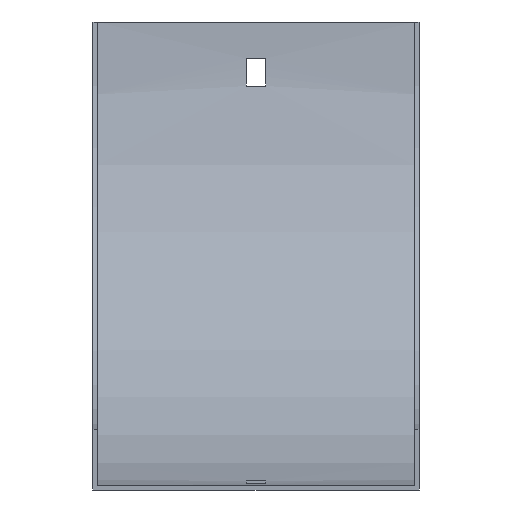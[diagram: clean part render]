
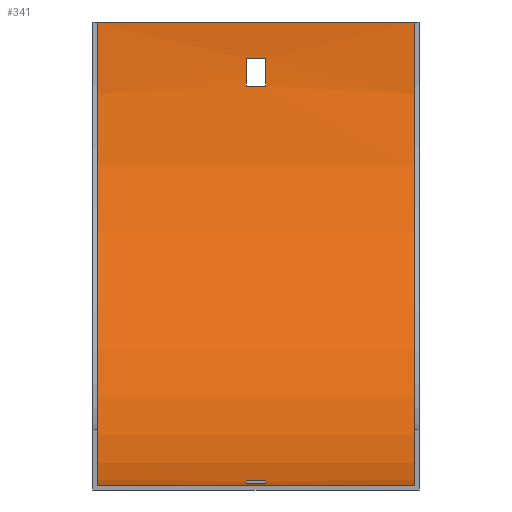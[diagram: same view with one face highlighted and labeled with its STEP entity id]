
A CAD part, front view. The second image highlights one B-rep face of the part: STEP entity #341.
In plain terms, the highlighted cylindrical face has radius 152 mm (diameter 304 mm), a partial arc.
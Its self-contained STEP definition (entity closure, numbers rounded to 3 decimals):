
#1 = CARTESIAN_POINT ( 'NONE',  ( -52., -153.5, 0. ) ) ;
#3 = DIRECTION ( 'NONE',  ( 1., 0., 0. ) ) ;
#10 = DIRECTION ( 'NONE',  ( 1., 0., 0. ) ) ;
#13 = EDGE_CURVE ( 'NONE', #569, #292, #121, .T. ) ;
#14 = AXIS2_PLACEMENT_3D ( 'NONE', #466, #3, #321 ) ;
#23 = VERTEX_POINT ( 'NONE', #535 ) ;
#29 = CARTESIAN_POINT ( 'NONE',  ( -52., -153.5, -152. ) ) ;
#50 = VERTEX_POINT ( 'NONE', #554 ) ;
#55 = CARTESIAN_POINT ( 'NONE',  ( -3.25, -141.5, -151.526 ) ) ;
#60 = EDGE_CURVE ( 'NONE', #567, #23, #520, .T. ) ;
#68 = ORIENTED_EDGE ( 'NONE', *, *, #60, .F. ) ;
#69 = CARTESIAN_POINT ( 'NONE',  ( 3.25, -1.974, -12. ) ) ;
#71 = DIRECTION ( 'NONE',  ( 0., 0., -1. ) ) ;
#73 = FACE_BOUND ( 'NONE', #352, .T. ) ;
#77 = CARTESIAN_POINT ( 'NONE',  ( 52., -153.5, -152. ) ) ;
#79 = CARTESIAN_POINT ( 'NONE',  ( 53.5, -2.958, -21. ) ) ;
#93 = ORIENTED_EDGE ( 'NONE', *, *, #103, .T. ) ;
#103 = EDGE_CURVE ( 'NONE', #590, #569, #225, .T. ) ;
#113 = VERTEX_POINT ( 'NONE', #77 ) ;
#121 = CIRCLE ( 'NONE', #462, 152. ) ;
#128 = EDGE_LOOP ( 'NONE', ( #68, #468, #253, #453 ) ) ;
#132 = VECTOR ( 'NONE', #448, 1000. ) ;
#136 = ORIENTED_EDGE ( 'NONE', *, *, #579, .F. ) ;
#140 = VECTOR ( 'NONE', #264, 1000. ) ;
#141 = ORIENTED_EDGE ( 'NONE', *, *, #561, .F. ) ;
#148 = EDGE_CURVE ( 'NONE', #191, #363, #501, .T. ) ;
#169 = DIRECTION ( 'NONE',  ( 0., 0., 1. ) ) ;
#171 = EDGE_CURVE ( 'NONE', #331, #346, #573, .T. ) ;
#174 = DIRECTION ( 'NONE',  ( -1., 0., 0. ) ) ;
#176 = EDGE_CURVE ( 'NONE', #113, #567, #607, .T. ) ;
#186 = ORIENTED_EDGE ( 'NONE', *, *, #13, .T. ) ;
#191 = VERTEX_POINT ( 'NONE', #427 ) ;
#202 = ORIENTED_EDGE ( 'NONE', *, *, #148, .F. ) ;
#203 = CARTESIAN_POINT ( 'NONE',  ( 3.25, -2.958, -21. ) ) ;
#215 = CARTESIAN_POINT ( 'NONE',  ( 3.25, -132.5, -150.542 ) ) ;
#217 = DIRECTION ( 'NONE',  ( -1., 0., 0. ) ) ;
#221 = AXIS2_PLACEMENT_3D ( 'NONE', #278, #275, #507 ) ;
#225 = LINE ( 'NONE', #416, #480 ) ;
#232 = CIRCLE ( 'NONE', #327, 152. ) ;
#234 = DIRECTION ( 'NONE',  ( 0., 0., 1. ) ) ;
#240 = AXIS2_PLACEMENT_3D ( 'NONE', #544, #500, #272 ) ;
#242 = VERTEX_POINT ( 'NONE', #55 ) ;
#248 = FACE_OUTER_BOUND ( 'NONE', #128, .T. ) ;
#249 = VECTOR ( 'NONE', #605, 1000. ) ;
#251 = EDGE_CURVE ( 'NONE', #113, #50, #367, .T. ) ;
#253 = ORIENTED_EDGE ( 'NONE', *, *, #251, .T. ) ;
#257 = CARTESIAN_POINT ( 'NONE',  ( -3.25, -153.5, 0. ) ) ;
#261 = LINE ( 'NONE', #452, #132 ) ;
#264 = DIRECTION ( 'NONE',  ( 1., 0., 0. ) ) ;
#272 = DIRECTION ( 'NONE',  ( 0., 0., 1. ) ) ;
#275 = DIRECTION ( 'NONE',  ( 1., 0., 0. ) ) ;
#278 = CARTESIAN_POINT ( 'NONE',  ( 52., -153.5, 0. ) ) ;
#288 = LINE ( 'NONE', #342, #356 ) ;
#292 = VERTEX_POINT ( 'NONE', #434 ) ;
#301 = CARTESIAN_POINT ( 'NONE',  ( 53.5, -153.5, 0. ) ) ;
#311 = DIRECTION ( 'NONE',  ( 1., 0., 0. ) ) ;
#321 = DIRECTION ( 'NONE',  ( 0., 0., -1. ) ) ;
#324 = EDGE_CURVE ( 'NONE', #50, #23, #288, .T. ) ;
#327 = AXIS2_PLACEMENT_3D ( 'NONE', #257, #10, #71 ) ;
#331 = VERTEX_POINT ( 'NONE', #203 ) ;
#334 = DIRECTION ( 'NONE',  ( -1., 0., 0. ) ) ;
#341 = ADVANCED_FACE ( 'NONE', ( #73, #248, #391 ), #387, .F. ) ;
#342 = CARTESIAN_POINT ( 'NONE',  ( 52., -1.5, 0. ) ) ;
#346 = VERTEX_POINT ( 'NONE', #69 ) ;
#352 = EDGE_LOOP ( 'NONE', ( #202, #141, #474, #136 ) ) ;
#356 = VECTOR ( 'NONE', #334, 1000. ) ;
#363 = VERTEX_POINT ( 'NONE', #442 ) ;
#364 = EDGE_CURVE ( 'NONE', #242, #590, #232, .T. ) ;
#367 = CIRCLE ( 'NONE', #221, 152. ) ;
#387 = CYLINDRICAL_SURFACE ( 'NONE', #421, 152. ) ;
#391 = FACE_BOUND ( 'NONE', #528, .T. ) ;
#416 = CARTESIAN_POINT ( 'NONE',  ( 53.5, -132.5, -150.542 ) ) ;
#420 = AXIS2_PLACEMENT_3D ( 'NONE', #1, #517, #234 ) ;
#421 = AXIS2_PLACEMENT_3D ( 'NONE', #301, #529, #522 ) ;
#423 = CARTESIAN_POINT ( 'NONE',  ( 52., -153.5, -152. ) ) ;
#427 = CARTESIAN_POINT ( 'NONE',  ( -3.25, -1.974, -12. ) ) ;
#434 = CARTESIAN_POINT ( 'NONE',  ( 3.25, -141.5, -151.526 ) ) ;
#442 = CARTESIAN_POINT ( 'NONE',  ( -3.25, -2.958, -21. ) ) ;
#448 = DIRECTION ( 'NONE',  ( -1., 0., 0. ) ) ;
#451 = EDGE_CURVE ( 'NONE', #292, #242, #456, .T. ) ;
#452 = CARTESIAN_POINT ( 'NONE',  ( 53.5, -1.974, -12. ) ) ;
#453 = ORIENTED_EDGE ( 'NONE', *, *, #324, .T. ) ;
#456 = LINE ( 'NONE', #543, #465 ) ;
#460 = ORIENTED_EDGE ( 'NONE', *, *, #451, .T. ) ;
#462 = AXIS2_PLACEMENT_3D ( 'NONE', #586, #217, #169 ) ;
#465 = VECTOR ( 'NONE', #174, 1000. ) ;
#466 = CARTESIAN_POINT ( 'NONE',  ( 3.25, -153.5, 0. ) ) ;
#468 = ORIENTED_EDGE ( 'NONE', *, *, #176, .F. ) ;
#474 = ORIENTED_EDGE ( 'NONE', *, *, #171, .F. ) ;
#480 = VECTOR ( 'NONE', #311, 1000. ) ;
#493 = LINE ( 'NONE', #79, #140 ) ;
#500 = DIRECTION ( 'NONE',  ( -1., 0., 0. ) ) ;
#501 = CIRCLE ( 'NONE', #240, 152. ) ;
#507 = DIRECTION ( 'NONE',  ( 0., 0., 1. ) ) ;
#517 = DIRECTION ( 'NONE',  ( 1., 0., 0. ) ) ;
#520 = CIRCLE ( 'NONE', #420, 152. ) ;
#522 = DIRECTION ( 'NONE',  ( 0., 0., 1. ) ) ;
#528 = EDGE_LOOP ( 'NONE', ( #460, #583, #93, #186 ) ) ;
#529 = DIRECTION ( 'NONE',  ( -1., 0., 0. ) ) ;
#535 = CARTESIAN_POINT ( 'NONE',  ( -52., -1.5, 0. ) ) ;
#543 = CARTESIAN_POINT ( 'NONE',  ( 53.5, -141.5, -151.526 ) ) ;
#544 = CARTESIAN_POINT ( 'NONE',  ( -3.25, -153.5, 0. ) ) ;
#554 = CARTESIAN_POINT ( 'NONE',  ( 52., -1.5, 0. ) ) ;
#561 = EDGE_CURVE ( 'NONE', #346, #191, #261, .T. ) ;
#565 = CARTESIAN_POINT ( 'NONE',  ( -3.25, -132.5, -150.542 ) ) ;
#567 = VERTEX_POINT ( 'NONE', #29 ) ;
#569 = VERTEX_POINT ( 'NONE', #215 ) ;
#573 = CIRCLE ( 'NONE', #14, 152. ) ;
#579 = EDGE_CURVE ( 'NONE', #363, #331, #493, .T. ) ;
#583 = ORIENTED_EDGE ( 'NONE', *, *, #364, .T. ) ;
#586 = CARTESIAN_POINT ( 'NONE',  ( 3.25, -153.5, 0. ) ) ;
#590 = VERTEX_POINT ( 'NONE', #565 ) ;
#605 = DIRECTION ( 'NONE',  ( -1., 0., 0. ) ) ;
#607 = LINE ( 'NONE', #423, #249 ) ;
